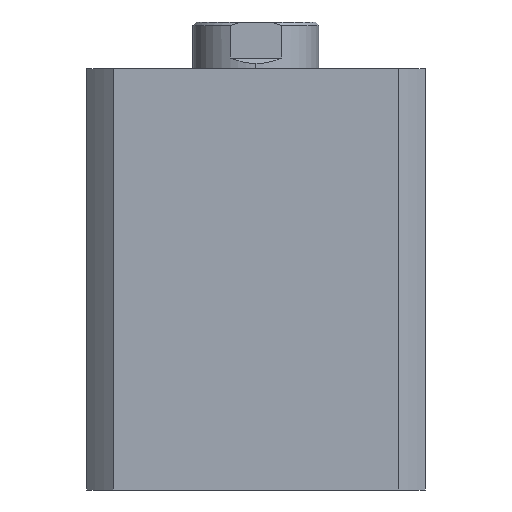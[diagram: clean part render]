
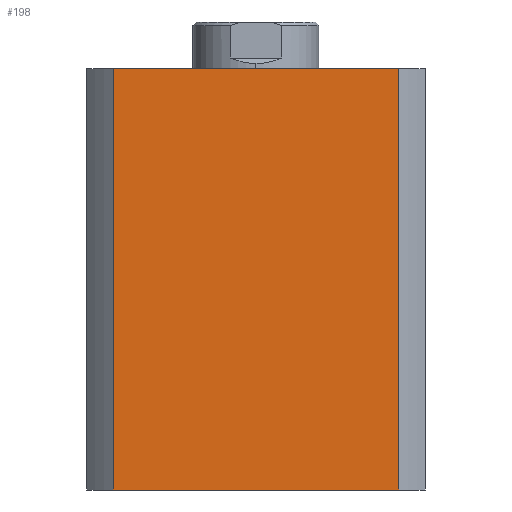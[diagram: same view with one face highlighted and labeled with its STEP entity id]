
A CAD part, left-side view. The second image highlights one B-rep face of the part: STEP entity #198.
In plain terms, the highlighted planar face has unit normal (-1, 0, 0).
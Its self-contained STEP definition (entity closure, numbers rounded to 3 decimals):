
#198 = ADVANCED_FACE ( 'NONE', ( #2525 ), #1292, .F. ) ;
#526 = LINE ( 'NONE', #4435, #528 ) ;
#528 = VECTOR ( 'NONE', #4430, 1000. ) ;
#566 = LINE ( 'NONE', #4755, #572 ) ;
#568 = LINE ( 'NONE', #4753, #570 ) ;
#570 = VECTOR ( 'NONE', #4746, 1000. ) ;
#571 = LINE ( 'NONE', #4761, #574 ) ;
#572 = VECTOR ( 'NONE', #4760, 1000. ) ;
#574 = VECTOR ( 'NONE', #4763, 1000. ) ;
#1055 = CARTESIAN_POINT ( 'NONE',  ( -47., 39.664, 117. ) ) ;
#1056 = CARTESIAN_POINT ( 'NONE',  ( -47., -39.664, 117. ) ) ;
#1076 = CARTESIAN_POINT ( 'NONE',  ( -47., 39.664, 0. ) ) ;
#1077 = CARTESIAN_POINT ( 'NONE',  ( -47., -39.664, 0. ) ) ;
#1286 = CARTESIAN_POINT ( 'NONE',  ( -47., 0., 117. ) ) ;
#1292 = PLANE ( 'NONE',  #3078 ) ;
#1295 = DIRECTION ( 'NONE',  ( 1., 0., 0. ) ) ;
#1296 = DIRECTION ( 'NONE',  ( 0., 0., -1. ) ) ;
#1409 = ORIENTED_EDGE ( 'NONE', *, *, #3926, .T. ) ;
#1411 = ORIENTED_EDGE ( 'NONE', *, *, #3925, .T. ) ;
#1412 = ORIENTED_EDGE ( 'NONE', *, *, #3892, .F. ) ;
#1413 = ORIENTED_EDGE ( 'NONE', *, *, #3927, .F. ) ;
#1475 = VERTEX_POINT ( 'NONE', #1055 ) ;
#1476 = VERTEX_POINT ( 'NONE', #1056 ) ;
#1496 = VERTEX_POINT ( 'NONE', #1076 ) ;
#1497 = VERTEX_POINT ( 'NONE', #1077 ) ;
#2525 = FACE_OUTER_BOUND ( 'NONE', #3989, .T. ) ;
#3078 = AXIS2_PLACEMENT_3D ( 'NONE', #1286, #1295, #1296 ) ;
#3892 = EDGE_CURVE ( 'NONE', #1475, #1476, #526, .T. ) ;
#3925 = EDGE_CURVE ( 'NONE', #1475, #1496, #568, .T. ) ;
#3926 = EDGE_CURVE ( 'NONE', #1496, #1497, #566, .T. ) ;
#3927 = EDGE_CURVE ( 'NONE', #1476, #1497, #571, .T. ) ;
#3989 = EDGE_LOOP ( 'NONE', ( #1409, #1413, #1412, #1411 ) ) ;
#4430 = DIRECTION ( 'NONE',  ( 0., -1., 0. ) ) ;
#4435 = CARTESIAN_POINT ( 'NONE',  ( -47., 0., 117. ) ) ;
#4746 = DIRECTION ( 'NONE',  ( 0., 0., -1. ) ) ;
#4753 = CARTESIAN_POINT ( 'NONE',  ( -47., 39.664, 117. ) ) ;
#4755 = CARTESIAN_POINT ( 'NONE',  ( -47., 0., 0. ) ) ;
#4760 = DIRECTION ( 'NONE',  ( 0., -1., 0. ) ) ;
#4761 = CARTESIAN_POINT ( 'NONE',  ( -47., -39.664, 117. ) ) ;
#4763 = DIRECTION ( 'NONE',  ( 0., 0., -1. ) ) ;
